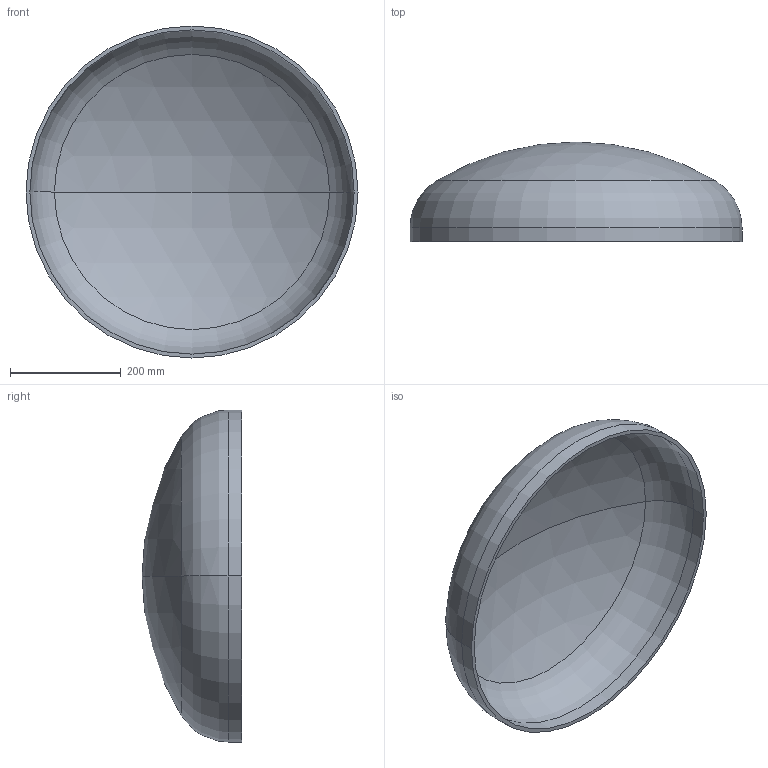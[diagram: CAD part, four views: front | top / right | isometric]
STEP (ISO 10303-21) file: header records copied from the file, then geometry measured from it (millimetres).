
FILE_DESCRIPTION (( 'STEP AP203' ), '1' );
FILE_NAME ('DIN 28013 Korbbogenform_-_Boden DIN 28013 - 600 x 25 - I - s=7.step', '2016-07-01T07:56:56', ( '' ), ( '' ), 'SwSTEP 2.0', 'SolidWorks 2013', '' );
FILE_SCHEMA (( 'CONFIG_CONTROL_DESIGN' ));
Length unit declared in the file: millimetre
Products named in the file (1): DIN 28013 Korbbogenform_-_Boden DIN 28013 - 600 x 25 - I - s=7
Bounding box: 600 x 180.12 x 600 mm (x, y, z)
Volume: 3022928.7 mm3; surface area: 876837 mm2
Topology: 1 solids, 1 shells, 13 faces, 24 edges, 14 vertices
Faces by surface type: torus 4, cylinder 4, sphere 4, plane 1
Entity records: 407 total; most frequent: DIRECTION 72, CARTESIAN_POINT 52, ORIENTED_EDGE 48, AXIS2_PLACEMENT_3D 34, EDGE_CURVE 24, CIRCLE 20, VERTEX_POINT 14, EDGE_LOOP 14
